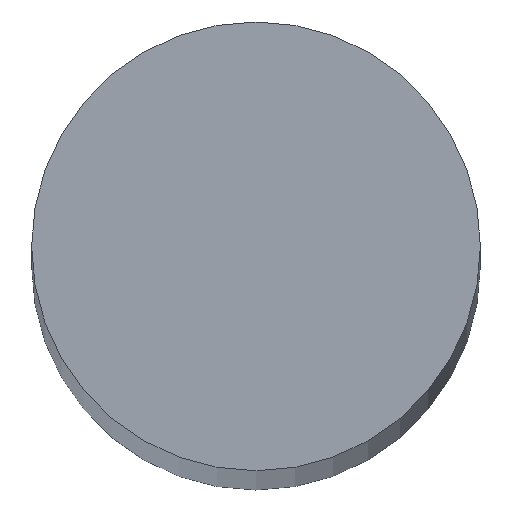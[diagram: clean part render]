
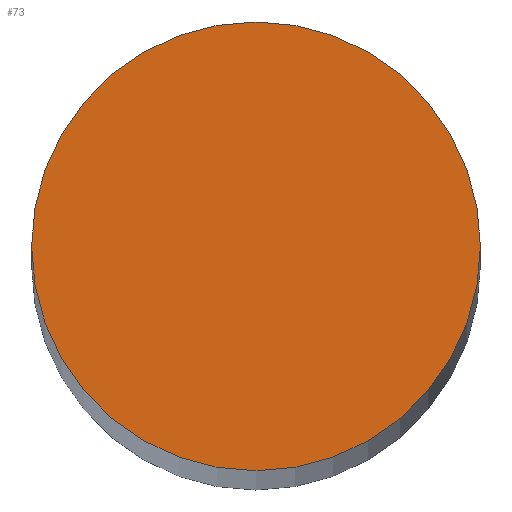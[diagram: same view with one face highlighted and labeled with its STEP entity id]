
A CAD part, top view. The second image highlights one B-rep face of the part: STEP entity #73.
In plain terms, the highlighted planar face has unit normal (0, 0, 1).
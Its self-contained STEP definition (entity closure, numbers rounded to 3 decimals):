
#12 = EDGE_LOOP ( 'NONE', ( #17, #16 ) ) ;
#16 = ORIENTED_EDGE ( 'NONE', *, *, #54, .T. ) ;
#17 = ORIENTED_EDGE ( 'NONE', *, *, #58, .T. ) ;
#29 = FACE_OUTER_BOUND ( 'NONE', #12, .T. ) ;
#35 = CIRCLE ( 'NONE', #65, 6. ) ;
#37 = CIRCLE ( 'NONE', #56, 6. ) ;
#54 = EDGE_CURVE ( 'NONE', #79, #82, #35, .T. ) ;
#56 = AXIS2_PLACEMENT_3D ( 'NONE', #97, #99, #100 ) ;
#58 = EDGE_CURVE ( 'NONE', #82, #79, #37, .T. ) ;
#65 = AXIS2_PLACEMENT_3D ( 'NONE', #94, #95, #96 ) ;
#68 = AXIS2_PLACEMENT_3D ( 'NONE', #112, #115, #116 ) ;
#73 = ADVANCED_FACE ( 'NONE', ( #29 ), #113, .T. ) ;
#79 = VERTEX_POINT ( 'NONE', #118 ) ;
#82 = VERTEX_POINT ( 'NONE', #117 ) ;
#94 = CARTESIAN_POINT ( 'NONE',  ( 0., 0., 147.5 ) ) ;
#95 = DIRECTION ( 'NONE',  ( 0., 0., 1. ) ) ;
#96 = DIRECTION ( 'NONE',  ( 1., 0., 0. ) ) ;
#97 = CARTESIAN_POINT ( 'NONE',  ( 0., 0., 147.5 ) ) ;
#99 = DIRECTION ( 'NONE',  ( 0., 0., 1. ) ) ;
#100 = DIRECTION ( 'NONE',  ( 1., 0., 0. ) ) ;
#112 = CARTESIAN_POINT ( 'NONE',  ( 0., 0., 147.5 ) ) ;
#113 = PLANE ( 'NONE',  #68 ) ;
#115 = DIRECTION ( 'NONE',  ( 0., 0., 1. ) ) ;
#116 = DIRECTION ( 'NONE',  ( 1., 0., 0. ) ) ;
#117 = CARTESIAN_POINT ( 'NONE',  ( -6., 0., 147.5 ) ) ;
#118 = CARTESIAN_POINT ( 'NONE',  ( 6., 0., 147.5 ) ) ;
